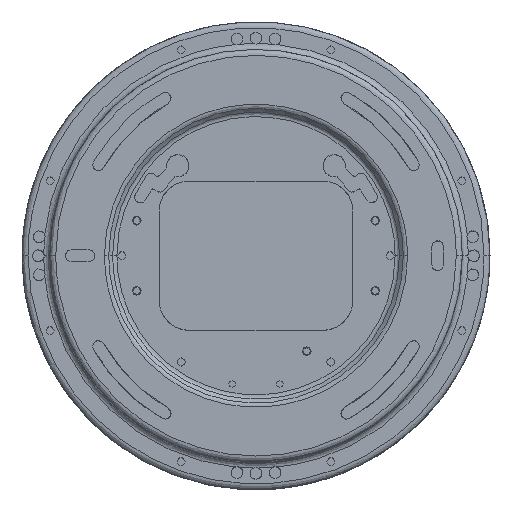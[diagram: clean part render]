
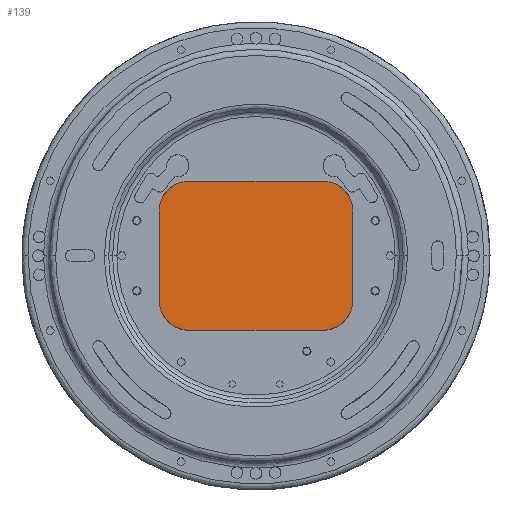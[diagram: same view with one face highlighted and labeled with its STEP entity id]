
A CAD part, top view. The second image highlights one B-rep face of the part: STEP entity #139.
In plain terms, the highlighted planar face has unit normal (0, 0, 1).
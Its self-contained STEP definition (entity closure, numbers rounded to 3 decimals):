
#139=ADVANCED_FACE('',(#476),#5037,.T.);
#476=FACE_OUTER_BOUND('',#846,.T.);
#846=EDGE_LOOP('',(#1609,#1610,#1611,#1612,#1613,#1614,#1615,#1616));
#1609=ORIENTED_EDGE('',*,*,#3088,.T.);
#1610=ORIENTED_EDGE('',*,*,#3059,.T.);
#1611=ORIENTED_EDGE('',*,*,#3085,.T.);
#1612=ORIENTED_EDGE('',*,*,#3060,.T.);
#1613=ORIENTED_EDGE('',*,*,#3081,.T.);
#1614=ORIENTED_EDGE('',*,*,#3061,.T.);
#1615=ORIENTED_EDGE('',*,*,#3077,.T.);
#1616=ORIENTED_EDGE('',*,*,#3058,.F.);
#3058=EDGE_CURVE('',#4744,#4743,#3725,.T.);
#3059=EDGE_CURVE('',#4745,#4746,#3726,.T.);
#3060=EDGE_CURVE('',#4747,#4748,#3727,.T.);
#3061=EDGE_CURVE('',#4749,#4750,#3728,.T.);
#3077=EDGE_CURVE('',#4750,#4743,#4004,.T.);
#3081=EDGE_CURVE('',#4748,#4749,#4007,.T.);
#3085=EDGE_CURVE('',#4746,#4747,#4010,.T.);
#3088=EDGE_CURVE('',#4744,#4745,#4012,.T.);
#3725=B_SPLINE_CURVE_WITH_KNOTS('',1,(#16602,#16603),.UNSPECIFIED.,.F.,
 .F.,(2,2),(-30.,0.),.UNSPECIFIED.);
#3726=B_SPLINE_CURVE_WITH_KNOTS('',1,(#16604,#16605),.UNSPECIFIED.,.F.,
 .F.,(2,2),(0.,45.),.UNSPECIFIED.);
#3727=B_SPLINE_CURVE_WITH_KNOTS('',1,(#16606,#16607),.UNSPECIFIED.,.F.,
 .F.,(2,2),(0.,30.),.UNSPECIFIED.);
#3728=B_SPLINE_CURVE_WITH_KNOTS('',1,(#16608,#16609),.UNSPECIFIED.,.F.,
 .F.,(2,2),(0.,45.),.UNSPECIFIED.);
#4004=(
BOUNDED_CURVE()
B_SPLINE_CURVE(2,(#16664,#16665,#16666),.UNSPECIFIED.,.F.,.F.)
B_SPLINE_CURVE_WITH_KNOTS((3,3),(-15.708,0.),.UNSPECIFIED.)
CURVE()
GEOMETRIC_REPRESENTATION_ITEM()
RATIONAL_B_SPLINE_CURVE((1.,0.707,1.))
REPRESENTATION_ITEM('')
);
#4007=(
BOUNDED_CURVE()
B_SPLINE_CURVE(2,(#16674,#16675,#16676),.UNSPECIFIED.,.F.,.F.)
B_SPLINE_CURVE_WITH_KNOTS((3,3),(-15.708,0.),.UNSPECIFIED.)
CURVE()
GEOMETRIC_REPRESENTATION_ITEM()
RATIONAL_B_SPLINE_CURVE((1.,0.707,1.))
REPRESENTATION_ITEM('')
);
#4010=(
BOUNDED_CURVE()
B_SPLINE_CURVE(2,(#16684,#16685,#16686),.UNSPECIFIED.,.F.,.F.)
B_SPLINE_CURVE_WITH_KNOTS((3,3),(-15.708,0.),.UNSPECIFIED.)
CURVE()
GEOMETRIC_REPRESENTATION_ITEM()
RATIONAL_B_SPLINE_CURVE((1.,0.707,1.))
REPRESENTATION_ITEM('')
);
#4012=(
BOUNDED_CURVE()
B_SPLINE_CURVE(2,(#16692,#16693,#16694),.UNSPECIFIED.,.F.,.F.)
B_SPLINE_CURVE_WITH_KNOTS((3,3),(-15.708,0.),.UNSPECIFIED.)
CURVE()
GEOMETRIC_REPRESENTATION_ITEM()
RATIONAL_B_SPLINE_CURVE((1.,0.707,1.))
REPRESENTATION_ITEM('')
);
#4743=VERTEX_POINT('',#15008);
#4744=VERTEX_POINT('',#15009);
#4745=VERTEX_POINT('',#15010);
#4746=VERTEX_POINT('',#15011);
#4747=VERTEX_POINT('',#15012);
#4748=VERTEX_POINT('',#15013);
#4749=VERTEX_POINT('',#15014);
#4750=VERTEX_POINT('',#15015);
#5037=PLANE('',#5394);
#5394=AXIS2_PLACEMENT_3D('',#8424,#5442,$);
#5442=DIRECTION('',(0.,0.,1.));
#8424=CARTESIAN_POINT('',(-220.97,27.55,-0.822));
#15008=CARTESIAN_POINT('',(-213.584,11.664,-0.822));
#15009=CARTESIAN_POINT('',(-213.584,-18.336,-0.822));
#15010=CARTESIAN_POINT('',(-203.584,-28.336,-0.822));
#15011=CARTESIAN_POINT('',(-158.584,-28.336,-0.822));
#15012=CARTESIAN_POINT('',(-148.584,-18.336,-0.822));
#15013=CARTESIAN_POINT('',(-148.584,11.664,-0.822));
#15014=CARTESIAN_POINT('',(-158.584,21.664,-0.822));
#15015=CARTESIAN_POINT('',(-203.584,21.664,-0.822));
#16602=CARTESIAN_POINT('',(-213.584,-18.336,-0.822));
#16603=CARTESIAN_POINT('',(-213.584,11.664,-0.822));
#16604=CARTESIAN_POINT('',(-203.584,-28.336,-0.822));
#16605=CARTESIAN_POINT('',(-158.584,-28.336,-0.822));
#16606=CARTESIAN_POINT('',(-148.584,-18.336,-0.822));
#16607=CARTESIAN_POINT('',(-148.584,11.664,-0.822));
#16608=CARTESIAN_POINT('',(-158.584,21.664,-0.822));
#16609=CARTESIAN_POINT('',(-203.584,21.664,-0.822));
#16664=CARTESIAN_POINT('',(-203.584,21.664,-0.822));
#16665=CARTESIAN_POINT('',(-213.584,21.664,-0.822));
#16666=CARTESIAN_POINT('',(-213.584,11.664,-0.822));
#16674=CARTESIAN_POINT('',(-148.584,11.664,-0.822));
#16675=CARTESIAN_POINT('',(-148.584,21.664,-0.822));
#16676=CARTESIAN_POINT('',(-158.584,21.664,-0.822));
#16684=CARTESIAN_POINT('',(-158.584,-28.336,-0.822));
#16685=CARTESIAN_POINT('',(-148.584,-28.336,-0.822));
#16686=CARTESIAN_POINT('',(-148.584,-18.336,-0.822));
#16692=CARTESIAN_POINT('',(-213.584,-18.336,-0.822));
#16693=CARTESIAN_POINT('',(-213.584,-28.336,-0.822));
#16694=CARTESIAN_POINT('',(-203.584,-28.336,-0.822));
